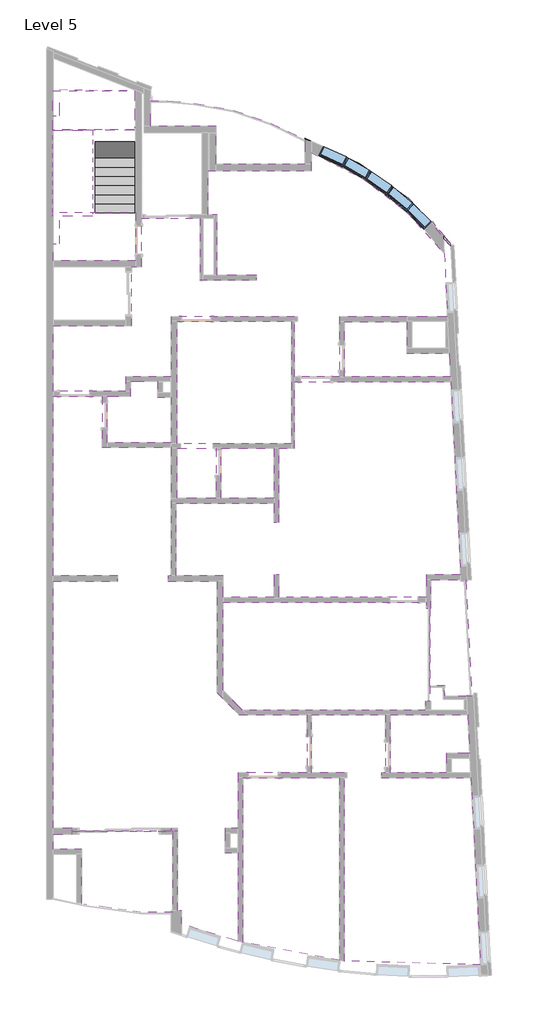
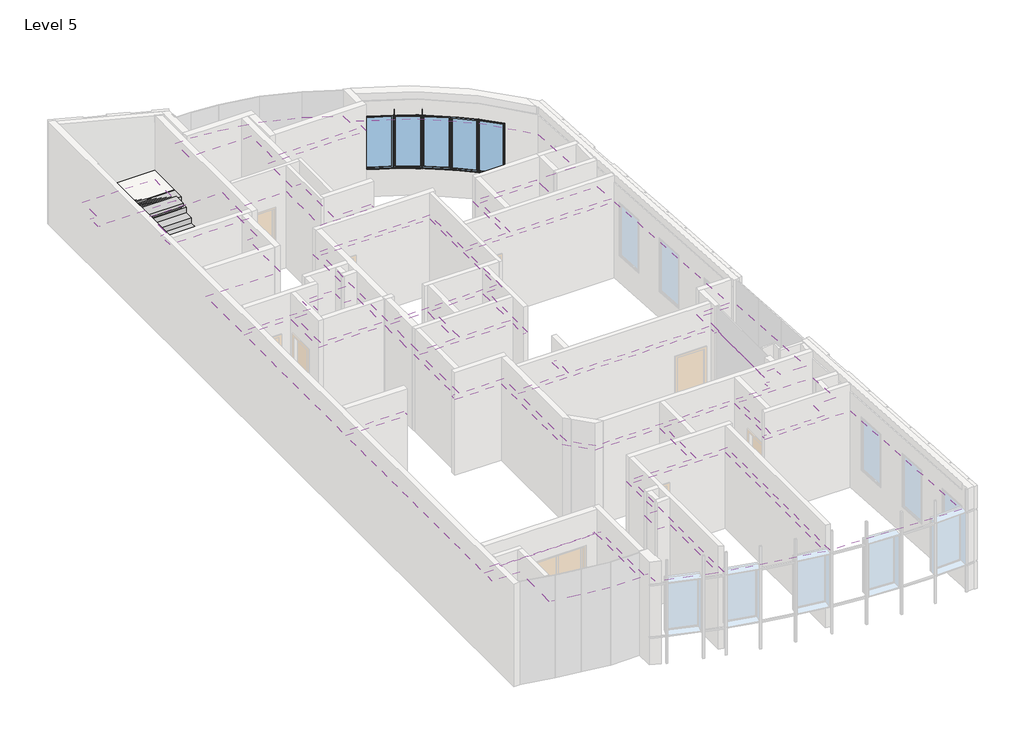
# One storey, part 5 of 5: 18 coverings, 5 windows, 2 proxies, 2 stair flights, 1 slab.
"""IFC4 building model written with IfcOpenShell, lengths in millimetres."""

from ifc_helpers import new_model, si_unit, point, frame, frame_2d, origin, place, context, project, spatial, polyline, circle_curve, trimmed, segment, composite_curve, outline, extrude, faceted_brep, transform, mapped, element, save
from components import m_fixed_0815_x_1830mm_2_6a11e188

model = new_model("IFC4")

# Units and contexts
model_context = context("Model", 3, world=origin())
ifc_project = project(units=[si_unit("LENGTHUNIT", "METRE", prefix="MILLI")], contexts=[model_context])

# Site, building, storey
site = spatial("IfcSite", under=ifc_project)
building = spatial("IfcBuilding", under=site)
storey = spatial("IfcBuildingStorey", under=building, Name="Level 5", Elevation=18500.0)

# Proxies
placement = place(None, origin())
element("IfcBuildingElementProxy", 1, Name="Reveal", ObjectType="Reveal", at=placement, inside=storey, context=model_context, shape_type="SweptSolid", body=[
    extrude(outline(composite_curve([segment(trimmed(circle_curve(frame_2d((4535.6080259, 3399.2748166)), 9525.0), [point((12124.5482533, 9155.45508))], [point((7662.3072504, 12396.4619859))], True, "CARTESIAN"), True, "CONTINUOUS"), segment(polyline([(7662.3072504, 12396.4619859), (7662.3072504, 12449.3785154)]), True, "CONTINUOUS"), segment(trimmed(circle_curve(frame_2d((4535.6080259, 3399.2748166)), 9575.0), [point((7662.3072504, 12449.3785154))], [point((12120.0590293, 9243.6505726))], False, "CARTESIAN"), True, "CONTINUOUS"), segment(polyline([(12120.0590293, 9243.6505726), (12124.5482533, 9155.45508)]), True, "CONTINUOUS")], self_intersect=False)), frame((0.0, 0.0, 19375.0), z_axis=(0.0, 0.0, 1.0), x_axis=(1.0, 0.0, 0.0)), (0.0, 0.0, 1.0), 50.0),
])
element("IfcBuildingElementProxy", 2, Name="Reveal", ObjectType="Reveal", at=placement, inside=storey, context=model_context, shape_type="SweptSolid", body=[
    extrude(outline(composite_curve([segment(trimmed(circle_curve(frame_2d((4535.6080259, 3399.2748166)), 9525.0), [point((12124.5482533, 9155.45508))], [point((11527.266896, 9867.8396686))], True, "CARTESIAN"), True, "CONTINUOUS"), segment(polyline([(11527.266896, 9867.8396686), (11562.5143185, 9903.3668328)]), True, "CONTINUOUS"), segment(trimmed(circle_curve(frame_2d((4535.6080259, 3399.2748166)), 9575.0), [point((11562.5143185, 9903.3668328))], [point((12120.0590293, 9243.6505726))], False, "CARTESIAN"), True, "CONTINUOUS"), segment(polyline([(12120.0590293, 9243.6505726), (12124.5482533, 9155.45508)]), True, "CONTINUOUS")], self_intersect=False)), frame((0.0, 0.0, 21195.0), z_axis=(0.0, 0.0, 1.0), x_axis=(1.0, 0.0, 0.0)), (0.0, 0.0, 1.0), 50.0),
    extrude(outline(composite_curve([segment(trimmed(circle_curve(frame_2d((4535.6080259, 3399.2748166)), 9525.0), [point((8210.516289, 12186.8042907))], [point((7662.3072504, 12396.4619859))], True, "CARTESIAN"), True, "CONTINUOUS"), segment(polyline([(7662.3072504, 12396.4619859), (7662.3072504, 12449.3785154)]), True, "CONTINUOUS"), segment(trimmed(circle_curve(frame_2d((4535.6080259, 3399.2748166)), 9575.0), [point((7662.3072504, 12449.3785154))], [point((8231.7823405, 12232.1067767))], False, "CARTESIAN"), True, "CONTINUOUS"), segment(polyline([(8231.7823405, 12232.1067767), (8210.516289, 12186.8042907)]), True, "CONTINUOUS")], self_intersect=False)), frame((0.0, 0.0, 21195.0), z_axis=(0.0, 0.0, 1.0), x_axis=(1.0, 0.0, 0.0)), (0.0, 0.0, 1.0), 50.0),
    extrude(outline(composite_curve([segment(trimmed(circle_curve(frame_2d((4535.6080259, 3399.2748166)), 9525.0), [point((8957.9716481, 11835.4069275))], [point((8948.2742549, 11840.4833647))], True, "CARTESIAN"), True, "CONTINUOUS"), segment(polyline([(8948.2742549, 11840.4833647), (8969.5403064, 11885.7858507)]), True, "CONTINUOUS"), segment(trimmed(circle_curve(frame_2d((4535.6080259, 3399.2748166)), 9575.0), [point((8969.5403064, 11885.7858507))], [point((8983.0823429, 11878.6968016))], False, "CARTESIAN"), True, "CONTINUOUS"), segment(polyline([(8983.0823429, 11878.6968016), (8957.9716481, 11835.4069275)]), True, "CONTINUOUS")], self_intersect=False)), frame((0.0, 0.0, 21195.0), z_axis=(0.0, 0.0, 1.0), x_axis=(1.0, 0.0, 0.0)), (0.0, 0.0, 1.0), 50.0),
    extrude(outline(composite_curve([segment(trimmed(circle_curve(frame_2d((4535.6080259, 3399.2748166)), 9525.0), [point((9668.2107942, 11423.1151579))], [point((9662.9539178, 11426.4753937))], True, "CARTESIAN"), True, "CONTINUOUS"), segment(polyline([(9662.9539178, 11426.4753937), (9688.0646126, 11469.7652678)]), True, "CONTINUOUS"), segment(trimmed(circle_curve(frame_2d((4535.6080259, 3399.2748166)), 9575.0), [point((9688.0646126, 11469.7652678))], [point((9696.9570845, 11464.0811314))], False, "CARTESIAN"), True, "CONTINUOUS"), segment(polyline([(9696.9570845, 11464.0811314), (9668.2107942, 11423.1151579)]), True, "CONTINUOUS")], self_intersect=False)), frame((0.0, 0.0, 21195.0), z_axis=(0.0, 0.0, 1.0), x_axis=(1.0, 0.0, 0.0)), (0.0, 0.0, 1.0), 50.0),
    extrude(outline(composite_curve([segment(trimmed(circle_curve(frame_2d((4535.6080259, 3399.2748166)), 9525.0), [point((10340.2860207, 10951.1844014))], [point((10335.3479854, 10954.9773917))], True, "CARTESIAN"), True, "CONTINUOUS"), segment(polyline([(10335.3479854, 10954.9773917), (10364.0942756, 10995.9433652)]), True, "CONTINUOUS"), segment(trimmed(circle_curve(frame_2d((4535.6080259, 3399.2748166)), 9575.0), [point((10364.0942756, 10995.9433652))], [point((10372.454166, 10989.521989))], False, "CARTESIAN"), True, "CONTINUOUS"), segment(polyline([(10372.454166, 10989.521989), (10340.2860207, 10951.1844014)]), True, "CONTINUOUS")], self_intersect=False)), frame((0.0, 0.0, 21195.0), z_axis=(0.0, 0.0, 1.0), x_axis=(1.0, 0.0, 0.0)), (0.0, 0.0, 1.0), 50.0),
])

# Coverings
element("IfcCovering", 3, ObjectType="600 x 600mm Grid", at=placement, inside=storey, context=model_context, shape_type="SweptSolid", body=[
    extrude(outline(polyline([(3749.9578779, 6844.2927825), (7249.9578779, 6844.2927825), (7249.9578779, 3106.8778064), (3749.9578779, 3106.8778064), (3749.9578779, 6844.2927825)])), frame((0.0, 0.0, 21100.0), z_axis=(0.0, 0.0, 1.0), x_axis=(1.0, 0.0, 0.0)), (0.0, 0.0, 1.0), 52.0),
])
element("IfcCovering", 4, ObjectType="600 x 600mm Grid", at=placement, inside=storey, context=model_context, shape_type="SweptSolid", body=[
    extrude(outline(polyline([(10788.049349, 5875.0705769), (12091.2636332, 5875.0705769), (12128.2063311, 5149.2927029), (8869.9578779, 5149.2927029), (8869.9578779, 6830.3684627), (10788.049349, 6830.3684627), (10788.049349, 5875.0705769)])), frame((0.0, 0.0, 21100.0), z_axis=(0.0, 0.0, 1.0), x_axis=(1.0, 0.0, 0.0)), (0.0, 0.0, 1.0), 52.0),
])
element("IfcCovering", 5, ObjectType="600 x 600mm Grid", at=placement, inside=storey, context=model_context, shape_type="SweptSolid", body=[
    extrude(outline(composite_curve([segment(polyline([(10005.6168737, -7123.7981953), (12752.9168737, -7123.7981953), (13044.0399551, -12843.2151043)]), True, "CONTINUOUS"), segment(trimmed(circle_curve(frame_2d((11609.3245394, 10843.3737526)), 23730.0), [point((13044.0399551, -12843.2151043))], [point((8870.2907737, -12728.0198004))], False, "CARTESIAN"), True, "CONTINUOUS"), segment(polyline([(8870.2907737, -12728.0198004), (8870.2907737, -6973.7981953), (7870.2909314, -6973.7981953), (7870.2909314, -5198.7981953), (10130.2907737, -5198.7981953), (10130.2907737, -6973.7981953), (10005.6168737, -6973.7981953), (10005.6168737, -7123.7981953)]), True, "CONTINUOUS")], self_intersect=False)), frame((0.0, 0.0, 21100.0), z_axis=(0.0, 0.0, 1.0), x_axis=(1.0, 0.0, 0.0)), (0.0, 0.0, 1.0), 52.0),
])
element("IfcCovering", 6, ObjectType="600 x 600mm Grid", at=placement, inside=storey, context=model_context, shape_type="SweptSolid", body=[
    extrude(outline(polyline([(10280.2907737, -5198.7981953), (12654.9327714, -5198.7981953), (12714.7412494, -6373.7981953), (11997.4732011, -6373.7981953), (11997.4732011, -6973.7981953), (10280.2907737, -6973.7981953), (10280.2907737, -5198.7981953)])), frame((0.0, 0.0, 21100.0), z_axis=(0.0, 0.0, 1.0), x_axis=(1.0, 0.0, 0.0)), (0.0, 0.0, 1.0), 52.0),
])
element("IfcCovering", 7, ObjectType="600 x 600mm Grid", at=placement, inside=storey, context=model_context, shape_type="SweptSolid", body=[
    extrude(outline(polyline([(5089.9578779, 1426.8778064), (5089.9578779, 2956.8778064), (6719.9578779, 2956.8778064), (6719.9578779, 1426.8778064), (5089.9578779, 1426.8778064)])), frame((0.0, 0.0, 21100.0), z_axis=(0.0, 0.0, 1.0), x_axis=(1.0, 0.0, 0.0)), (0.0, 0.0, 1.0), 52.0),
])
element("IfcCovering", 8, ObjectType="600 x 600mm Grid", at=placement, inside=storey, context=model_context, shape_type="SweptSolid", body=[
    extrude(outline(polyline([(3569.9578779, 4516.8864855), (3569.9578779, 3136.8778064), (1599.9578776, 3136.8778064), (1599.9578776, 4556.8830582), (2319.9578779, 4556.8830582), (2319.9578779, 5006.8860701), (3149.9574416, 5006.8860701), (3149.9574416, 4516.8864855), (3569.9578779, 4516.8864855)])), frame((0.0, 0.0, 21100.0), z_axis=(0.0, 0.0, 1.0), x_axis=(1.0, 0.0, 0.0)), (0.0, 0.0, 1.0), 52.0),
])
element("IfcCovering", 9, ObjectType="600 x 600mm Grid", at=placement, inside=storey, context=model_context, shape_type="SweptSolid", body=[
    extrude(outline(composite_curve([segment(polyline([(11936.5482631, 8914.6155682), (12034.2942913, 6994.2927825), (10782.6929286, 6994.2927825), (10782.6929286, 6980.3684627), (8719.9578779, 6980.3684627), (8719.9578779, 5149.2927029), (7349.9578779, 5149.2927029), (7349.9578779, 6994.2927825), (3569.9578779, 6994.2927825), (3569.9578779, 5156.8860701), (2169.9578779, 5156.8860701), (2169.9578779, 4706.8830582), (-50.0421304, 4706.8830582), (-50.0421304, 6706.8748838), (2350.0654712, 6706.8748838), (2350.0654712, 8516.8748746), (2661.8607589, 8516.8748746), (2661.8607589, 10006.8748959), (4449.2779066, 10006.8748959), (4449.2779066, 8112.262158), (6174.9402277, 8112.262158), (6174.9402277, 8262.262158), (4979.9402277, 8262.262158), (4979.9402277, 10106.8748959), (4699.9587688, 10106.8748959), (4699.9587688, 11454.5991251), (7862.3072504, 11454.5991251), (7862.3072504, 12008.9189597)]), True, "CONTINUOUS"), segment(trimmed(circle_curve(frame_2d((4535.6080259, 3399.2748166)), 9230.0), [point((7862.3072504, 12008.9189597))], [point((11936.5482631, 8914.6155682))], False, "CARTESIAN"), True, "CONTINUOUS")], self_intersect=False)), frame((0.0, 0.0, 21100.0), z_axis=(0.0, 0.0, 1.0), x_axis=(1.0, 0.0, 0.0)), (0.0, 0.0, 1.0), 52.0),
])
element("IfcCovering", 10, ObjectType="600 x 600mm Grid", at=placement, inside=storey, context=model_context, shape_type="SweptSolid", body=[
    extrude(outline(composite_curve([segment(trimmed(circle_curve(frame_2d((11609.3245394, 10843.3737526)), 23730.0), [point((8720.2907737, -12710.1054788))], [point((5770.2907737, -12157.0302587))], False, "CARTESIAN"), True, "CONTINUOUS"), segment(polyline([(5770.2907737, -12157.0302587), (5770.2907737, -7123.7981953), (8720.2907737, -7123.7981953), (8720.2907737, -12710.1054788)]), True, "CONTINUOUS")], self_intersect=False)), frame((0.0, 0.0, 21100.0), z_axis=(0.0, 0.0, 1.0), x_axis=(1.0, 0.0, 0.0)), (0.0, 0.0, 1.0), 52.0),
])
element("IfcCovering", 11, ObjectType="600 x 600mm Grid", at=placement, inside=storey, context=model_context, shape_type="SweptSolid", body=[
    extrude(outline(composite_curve([segment(polyline([(-50.0421304, -8662.2362629), (-50.0421304, -1113.1221936), (1933.9578781, -1113.1221936), (1933.9578781, -933.1221936), (-50.0421304, -933.1221936), (-50.0421304, 4556.8830582), (1449.9578776, 4556.8830582), (1449.9578776, 2986.8778064), (3569.9578779, 2986.8778064), (3569.9578779, 1351.8778064), (3569.9578779, -933.1221936), (3473.9578779, -933.1221936), (3473.9578779, -1113.1221936), (4969.9578778, -1113.1221936), (4969.9578778, -4517.9715169), (5643.7897147, -5198.7981953), (7720.2909314, -5198.7981953), (7720.2909314, -6973.7981953), (5620.2907737, -6973.7981953), (5620.2907737, -8662.29082), (5223.5699518, -8662.29082), (5223.5699518, -9422.4272222), (5620.2907737, -9422.4272222), (5620.2907737, -12118.4287584)]), True, "CONTINUOUS"), segment(trimmed(circle_curve(frame_2d((11609.3245394, 10843.3737526)), 23730.0), [point((5620.2907737, -12118.4287584))], [point((3880.252741, -11592.6318887))], False, "CARTESIAN"), True, "CONTINUOUS"), segment(polyline([(3880.252741, -11592.6318887), (3880.252741, -11189.3160932), (3760.252741, -11189.3160932), (3760.252741, -8757.0181124), (3600.5670169, -8757.0181124), (3600.5670169, -8673.6141586), (3557.6788606, -8673.6141586), (3557.6788606, -8757.0181124), (529.9578696, -8757.0181124), (529.9578696, -8662.2362629), (-50.0421304, -8662.2362629)]), True, "CONTINUOUS")], self_intersect=False)), frame((0.0, 0.0, 21100.0), z_axis=(0.0, 0.0, 1.0), x_axis=(1.0, 0.0, 0.0)), (0.0, 0.0, 1.0), 52.0),
])
element("IfcCovering", 12, ObjectType="600 x 600mm Grid", at=placement, inside=storey, context=model_context, shape_type="SweptSolid", body=[
    extrude(outline(polyline([(-50.0421304, -9312.1185157), (-50.0421304, -8842.2362629), (529.9578696, -8842.2362629), (529.9578696, -8757.0181124), (3610.252741, -8757.0181124), (3610.252741, -11236.9456492), (2620.252741, -11236.9456492), (1746.4600136, -11114.1420899), (974.05092, -11005.5870712), (829.9393362, -10974.9552084), (829.9393362, -9312.1185157), (-50.0421304, -9312.1185157)])), frame((0.0, 0.0, 21100.0), z_axis=(0.0, 0.0, 1.0), x_axis=(1.0, 0.0, 0.0)), (0.0, 0.0, 1.0), 52.0),
])
element("IfcCovering", 13, ObjectType="600 x 600mm Grid", at=placement, inside=storey, context=model_context, shape_type="SweptSolid", body=[
    extrude(outline(polyline([(11529.9578778, -1933.9547288), (11529.9578778, -1053.8603265), (12594.2109056, -1053.8603265), (12655.9511875, -2266.8126319), (12714.9198118, -3425.3128267), (12776.048406, -4626.2478876), (11949.9334783, -4624.2050678), (11933.314431, -4297.7065316), (11490.9685725, -4320.222304), (11490.9685725, -1933.9547288), (11529.9578778, -1933.9547288)])), frame((0.0, 0.0, 21100.0), z_axis=(0.0, 0.0, 1.0), x_axis=(1.0, 0.0, 0.0)), (0.0, 0.0, 1.0), 52.0),
])
element("IfcCovering", 14, ObjectType="600 x 600mm Grid", at=placement, inside=storey, context=model_context, shape_type="SweptSolid", body=[
    extrude(outline(polyline([(5149.9578778, -4443.9569428), (5149.9578778, -1753.9547298), (11379.9578778, -1753.9547298), (11379.9578778, -1933.9547288), (11490.9685725, -1933.9547288), (11490.9685725, -4783.8440392), (11349.9578778, -4783.8440392), (11349.9578778, -5048.7981953), (5748.5849662, -5048.7981953), (5149.9578778, -4443.9569428)])), frame((0.0, 0.0, 21100.0), z_axis=(0.0, 0.0, 1.0), x_axis=(1.0, 0.0, 0.0)), (0.0, 0.0, 1.0), 52.0),
])
element("IfcCovering", 15, ObjectType="600 x 600mm Grid", at=placement, inside=storey, context=model_context, shape_type="SweptSolid", body=[
    extrude(outline(polyline([(7349.9578779, 2956.8778064), (7349.9578779, 4999.2927029), (12135.8414559, 4999.2927029), (12436.3168588, -903.8603265), (11379.9578778, -903.8603265), (11379.9578778, -1603.9547298), (6869.9578779, -1603.9547298), (6869.9578779, -903.9547298), (6719.9578779, -903.9547298), (6719.9578779, -1603.9547298), (5149.9578778, -1603.9547298), (5149.9578778, -933.1221936), (3719.9578779, -933.1221936), (3719.9578779, 1276.8778064), (6719.9578779, 1276.8778064), (6719.9578779, 696.0452702), (6869.9578779, 696.0452702), (6869.9578779, 2956.8778064), (7349.9578779, 2956.8778064)])), frame((0.0, 0.0, 21100.0), z_axis=(0.0, 0.0, 1.0), x_axis=(1.0, 0.0, 0.0)), (0.0, 0.0, 1.0), 52.0),
])
element("IfcCovering", 16, ObjectType="600 x 600mm Grid", at=placement, inside=storey, context=model_context, shape_type="SweptSolid", body=[
    extrude(outline(polyline([(3749.9578779, 1426.8778064), (3749.9578779, 2956.8778064), (4939.9578779, 2956.8778064), (4939.9578779, 1426.8778064), (3749.9578779, 1426.8778064)])), frame((0.0, 0.0, 21100.0), z_axis=(0.0, 0.0, 1.0), x_axis=(1.0, 0.0, 0.0)), (0.0, 0.0, 1.0), 52.0),
])
element("IfcCovering", 17, ObjectType="600 x 600mm Grid", at=placement, inside=storey, context=model_context, shape_type="SweptSolid", body=[
    extrude(outline(polyline([(7662.3072504, 12409.1006238), (7662.3072504, 11654.5991251), (4949.6116933, 11654.5991251), (4949.6116933, 12811.9409286), (2939.9587442, 12811.9409286), (2939.9587442, 13599.3570533), (3438.1784244, 13599.3570533), (4275.7806873, 13521.2545862), (5477.246146, 13309.4038095), (6630.7788082, 12912.210661), (7662.3072504, 12409.1006238)])), frame((0.0, 0.0, 21100.0), z_axis=(0.0, 0.0, 1.0), x_axis=(1.0, 0.0, 0.0)), (0.0, 0.0, 1.0), 52.0),
])
element("IfcCovering", 18, ObjectType="600 x 600mm Grid", at=placement, inside=storey, context=model_context, shape_type="SweptSolid", body=[
    extrude(outline(composite_curve([segment(polyline([(11936.5482631, 8914.6155682), (12034.2942913, 6994.2927825), (10782.6929286, 6994.2927825), (10782.6929286, 6980.3684627), (8719.9578779, 6980.3684627), (8719.9578779, 5149.2927029), (7349.9578779, 5149.2927029), (7349.9578779, 6994.2927825), (3569.9578779, 6994.2927825), (3569.9578779, 5156.8860701), (2169.9578779, 5156.8860701), (2169.9578779, 4706.8830582), (-50.0421304, 4706.8830582), (-50.0421304, 6706.8748838), (2350.0654712, 6706.8748838), (2350.0654712, 8516.8748746), (2661.8607589, 8516.8748746), (2661.8607589, 10006.8748959), (4449.2779066, 10006.8748959), (4449.2779066, 8112.262158), (6174.9402277, 8112.262158), (6174.9402277, 8262.262158), (4979.9402277, 8262.262158), (4979.9402277, 10106.8748959), (4699.9587688, 10106.8748959), (4699.9587688, 11454.5991251), (7862.3072504, 11454.5991251), (7862.3072504, 12008.9189597)]), True, "CONTINUOUS"), segment(trimmed(circle_curve(frame_2d((4535.6080259, 3399.2748166)), 9230.0), [point((7862.3072504, 12008.9189597))], [point((11936.5482631, 8914.6155682))], False, "CARTESIAN"), True, "CONTINUOUS")], self_intersect=False)), frame((0.0, 0.0, 21100.0), z_axis=(0.0, 0.0, 1.0), x_axis=(1.0, 0.0, 0.0)), (0.0, 0.0, 1.0), 52.0),
])
element("IfcCovering", 19, ObjectType="600 x 600mm Grid", at=placement, inside=storey, context=model_context, shape_type="SweptSolid", body=[
    extrude(outline(polyline([(2481.8607589, 10179.4957281), (2481.8607589, 8696.8748746), (-50.0421304, 8696.8748746), (-50.0421304, 9219.4957281), (149.9709975, 9219.4957281), (149.9709975, 10179.4957281), (2481.8607589, 10179.4957281)])), frame((0.0, 0.0, 21650.0), z_axis=(0.0, 0.0, 1.0), x_axis=(1.0, 0.0, 0.0)), (0.0, 0.0, 1.0), 52.0),
])
element("IfcCovering", 20, ObjectType="600 x 600mm Grid", at=placement, inside=storey, context=model_context, shape_type="SweptSolid", body=[
    extrude(outline(polyline([(2454.9743495, 13908.8107611), (2454.9743495, 12688.8107611), (2439.3607589, 12688.8107611), (2439.3607589, 12708.2107611), (-17.3392411, 12708.2107611), (-17.3392411, 12688.8107611), (-60.0421304, 12688.8107611), (-60.0421304, 13143.419171), (149.9709975, 13143.419171), (149.9709975, 13943.419171), (2454.9743495, 13908.8107611)])), frame((0.0, 0.0, 19850.0), z_axis=(0.0, 0.0, 1.0), x_axis=(1.0, 0.0, 0.0)), (0.0, 0.0, 1.0), 52.0),
])

# Slab
element("IfcSlab", 21, ObjectType="220mm Thickness", at=placement, inside=storey, context=model_context, shape_type="Brep", body=[
    faceted_brep([(2454.9743495, 13908.8107611, 20157.8947368), (-60.0421304, 13908.8107611, 20157.8947368), (-60.0421304, 12688.8107611, 20157.8947368), (1159.9578696, 12688.8107611, 20157.8947368), (1233.3868495, 12688.8107611, 20157.8947368), (1233.3868495, 12798.8107611, 20157.8947368), (2454.9743495, 12798.8107611, 20157.8947368), (2454.9743495, 13908.8107611, 19937.8947368), (2454.9743495, 12798.8107611, 20047.8947368), (2454.9743495, 12698.8107611, 20047.8947368), (2454.9743495, 12698.8107611, 19937.8947368), (-60.0421304, 13908.8107611, 19937.8947368), (-60.0421304, 12688.8107611, 19937.8947368), (1159.9578696, 12688.8107611, 19937.8947368), (1233.3868495, 12688.8107611, 19937.8947368), (1233.3868495, 12698.8107611, 19937.8947368), (1233.3868495, 12798.8107611, 20047.8947368), (1233.3868495, 12698.8107611, 20047.8947368)], [[[0, 1, 2, 3, 4, 5, 6]], [[7, 0, 6, 8, 9, 10]], [[1, 0, 7, 11]], [[2, 1, 11, 12]], [[3, 2, 12, 13]], [[3, 13, 14, 4]], [[11, 7, 10, 15, 14, 13, 12]], [[16, 17, 9, 8]], [[5, 16, 8, 6]], [[16, 5, 4, 14, 15, 17]], [[9, 17, 15, 10]]]),
])

# Stair flights
element("IfcStairFlight", 22, ObjectType="190mm Depth", at=placement, inside=storey, context=model_context, shape_type="Brep", body=[
    faceted_brep([(1234.9743495, 10448.8107611, 18684.2105263), (1234.9743495, 10168.8107611, 18684.2105263), (2454.9743495, 10168.8107611, 18684.2105263), (2454.9743495, 10448.8107611, 18684.2105263), (1234.9743495, 10448.8107611, 18500.0), (1234.9743495, 10168.8107611, 18500.0), (2454.9743495, 10168.8107611, 18500.0), (2454.9743495, 10448.8107611, 18500.0), (1234.9743495, 10728.8107611, 18868.4210526), (1234.9743495, 10448.8107611, 18868.4210526), (2454.9743495, 10448.8107611, 18868.4210526), (2454.9743495, 10728.8107611, 18868.4210526), (1234.9743495, 10728.8107611, 18640.9897443), (1234.9743495, 10514.5063497, 18500.0), (2454.9743495, 10514.5063497, 18500.0), (2454.9743495, 10728.8107611, 18640.9897443), (1234.9743495, 11008.8107611, 19052.6315789), (1234.9743495, 10728.8107611, 19052.6315789), (2454.9743495, 10728.8107611, 19052.6315789), (2454.9743495, 11008.8107611, 19052.6315789), (1234.9743495, 11008.8107611, 18825.2002706), (2454.9743495, 11008.8107611, 18825.2002706), (1234.9743495, 11288.8107611, 19236.8421053), (1234.9743495, 11008.8107611, 19236.8421053), (2454.9743495, 11008.8107611, 19236.8421053), (2454.9743495, 11288.8107611, 19236.8421053), (1234.9743495, 11288.8107611, 19009.410797), (2454.9743495, 11288.8107611, 19009.410797), (1234.9743495, 11568.8107611, 19421.0526316), (1234.9743495, 11288.8107611, 19421.0526316), (2454.9743495, 11288.8107611, 19421.0526316), (2454.9743495, 11568.8107611, 19421.0526316), (1234.9743495, 11568.8107611, 19193.6213233), (2454.9743495, 11568.8107611, 19193.6213233), (1234.9743495, 11848.8107611, 19605.2631579), (1234.9743495, 11568.8107611, 19605.2631579), (2454.9743495, 11568.8107611, 19605.2631579), (2454.9743495, 11848.8107611, 19605.2631579), (1234.9743495, 11848.8107611, 19377.8318496), (2454.9743495, 11848.8107611, 19377.8318496), (1234.9743495, 12128.8107611, 19789.4736842), (1234.9743495, 11848.8107611, 19789.4736842), (2454.9743495, 11848.8107611, 19789.4736842), (2454.9743495, 12128.8107611, 19789.4736842), (1234.9743495, 12128.8107611, 19562.0423759), (2454.9743495, 12128.8107611, 19562.0423759), (1234.9743495, 12408.8107611, 19973.6842105), (1234.9743495, 12128.8107611, 19973.6842105), (2454.9743495, 12128.8107611, 19973.6842105), (2454.9743495, 12408.8107611, 19973.6842105), (1234.9743495, 12408.8107611, 19746.2529022), (2454.9743495, 12408.8107611, 19746.2529022), (1234.9743495, 12408.8107611, 20157.8947368), (2454.9743495, 12408.8107611, 20157.8947368), (2454.9743495, 12788.8107611, 20157.8947368), (1234.9743495, 12788.8107611, 20157.8947368), (1234.9743495, 12788.8107611, 20057.8947368), (1234.9743495, 12688.8107611, 20057.8947368), (1234.9743495, 12688.8107611, 19930.4634285), (2454.9743495, 12688.8107611, 19930.4634285), (2454.9743495, 12688.8107611, 20057.8947368), (2454.9743495, 12788.8107611, 20057.8947368)], [[[0, 1, 2, 3]], [[1, 0, 4, 5]], [[2, 1, 5, 6]], [[3, 2, 6, 7]], [[8, 9, 10, 11]], [[4, 0, 9, 8, 12, 13]], [[0, 3, 10, 9]], [[3, 7, 14, 15, 11, 10]], [[16, 17, 18, 19]], [[17, 16, 20, 12, 8]], [[8, 11, 18, 17]], [[19, 18, 11, 15, 21]], [[22, 23, 24, 25]], [[23, 22, 26, 20, 16]], [[16, 19, 24, 23]], [[25, 24, 19, 21, 27]], [[28, 29, 30, 31]], [[29, 28, 32, 26, 22]], [[22, 25, 30, 29]], [[31, 30, 25, 27, 33]], [[34, 35, 36, 37]], [[35, 34, 38, 32, 28]], [[28, 31, 36, 35]], [[37, 36, 31, 33, 39]], [[40, 41, 42, 43]], [[41, 40, 44, 38, 34]], [[34, 37, 42, 41]], [[43, 42, 37, 39, 45]], [[46, 47, 48, 49]], [[47, 46, 50, 44, 40]], [[40, 43, 48, 47]], [[49, 48, 43, 45, 51]], [[52, 53, 54, 55]], [[52, 55, 56, 57, 58, 50, 46]], [[46, 49, 53, 52]], [[54, 53, 49, 51, 59, 60, 61]], [[58, 57, 60, 59]], [[5, 4, 13, 14, 7, 6]], [[14, 13, 12, 20, 26, 32, 38, 44, 50, 58, 59, 51, 45, 39, 33, 27, 21, 15]], [[61, 60, 57, 56]], [[61, 56, 55, 54]]]),
])
element("IfcStairFlight", 23, ObjectType="190mm Depth", at=placement, inside=storey, context=model_context, shape_type="Brep", body=[
    faceted_brep([(1159.9578696, 12688.8107611, 20342.1052632), (-60.0421304, 12688.8107611, 20342.1052632), (-60.0421304, 12677.5151724, 20342.1052632), (-60.0421304, 12408.8107611, 20342.1052632), (1159.9578696, 12408.8107611, 20342.1052632), (1159.9578696, 12677.5151724, 20342.1052632), (1159.9578696, 12408.8107611, 20114.6739548), (1159.9578696, 12677.5151724, 19937.8947368), (1159.9578696, 12688.8107611, 19937.8947368), (-60.0421304, 12688.8107611, 19937.8947368), (-60.0421304, 12677.5151724, 19937.8947368), (-60.0421304, 12408.8107611, 20114.6739548), (1159.9578696, 12128.8107611, 20526.3157895), (1159.9578696, 12408.8107611, 20526.3157895), (-60.0421304, 12408.8107611, 20526.3157895), (-60.0421304, 12128.8107611, 20526.3157895), (1159.9578696, 12128.8107611, 20298.8844812), (-60.0421304, 12128.8107611, 20298.8844812), (1159.9578696, 11848.8107611, 20710.5263158), (1159.9578696, 12128.8107611, 20710.5263158), (-60.0421304, 12128.8107611, 20710.5263158), (-60.0421304, 11848.8107611, 20710.5263158), (1159.9578696, 11848.8107611, 20483.0950075), (-60.0421304, 11848.8107611, 20483.0950075), (1159.9578696, 11568.8107611, 20894.7368421), (1159.9578696, 11848.8107611, 20894.7368421), (-60.0421304, 11848.8107611, 20894.7368421), (-60.0421304, 11568.8107611, 20894.7368421), (1159.9578696, 11568.8107611, 20667.3055338), (-60.0421304, 11568.8107611, 20667.3055338), (1159.9578696, 11288.8107611, 21078.9473684), (1159.9578696, 11568.8107611, 21078.9473684), (-60.0421304, 11568.8107611, 21078.9473684), (-60.0421304, 11288.8107611, 21078.9473684), (1159.9578696, 11288.8107611, 20851.5160601), (-60.0421304, 11288.8107611, 20851.5160601), (1159.9578696, 11008.8107611, 21263.1578947), (1159.9578696, 11288.8107611, 21263.1578947), (-60.0421304, 11288.8107611, 21263.1578947), (-60.0421304, 11008.8107611, 21263.1578947), (1159.9578696, 11008.8107611, 21035.7265864), (-60.0421304, 11008.8107611, 21035.7265864), (1159.9578696, 10728.8107611, 21447.3684211), (1159.9578696, 11008.8107611, 21447.3684211), (-60.0421304, 11008.8107611, 21447.3684211), (-60.0421304, 10728.8107611, 21447.3684211), (1159.9578696, 10728.8107611, 21219.9371127), (-60.0421304, 10728.8107611, 21219.9371127), (1159.9578696, 10448.8107611, 21631.5789474), (1159.9578696, 10728.8107611, 21631.5789474), (-60.0421304, 10728.8107611, 21631.5789474), (-60.0421304, 10448.8107611, 21631.5789474), (1159.9578696, 10448.8107611, 21404.1476391), (-60.0421304, 10448.8107611, 21404.1476391), (1159.9578696, 10448.8107611, 21815.7894737), (-60.0421304, 10448.8107611, 21815.7894737), (-60.0421304, 10068.8107611, 21815.7894737), (1159.9578696, 10068.8107611, 21815.7894737), (1159.9578696, 10068.8107611, 21715.7894737), (1159.9578696, 10168.8107611, 21715.7894737), (1159.9578696, 10168.8107611, 21588.3581654), (-60.0421304, 10168.8107611, 21588.3581654), (-60.0421304, 10168.8107611, 21715.7894737), (-60.0421304, 10068.8107611, 21715.7894737)], [[[0, 1, 2, 3, 4, 5]], [[4, 6, 7, 8, 0, 5]], [[1, 0, 8, 9]], [[1, 9, 10, 11, 3, 2]], [[12, 13, 14, 15]], [[13, 12, 16, 6, 4]], [[14, 13, 4, 3]], [[15, 14, 3, 11, 17]], [[18, 19, 20, 21]], [[19, 18, 22, 16, 12]], [[20, 19, 12, 15]], [[21, 20, 15, 17, 23]], [[24, 25, 26, 27]], [[25, 24, 28, 22, 18]], [[26, 25, 18, 21]], [[27, 26, 21, 23, 29]], [[30, 31, 32, 33]], [[31, 30, 34, 28, 24]], [[32, 31, 24, 27]], [[33, 32, 27, 29, 35]], [[36, 37, 38, 39]], [[37, 36, 40, 34, 30]], [[38, 37, 30, 33]], [[39, 38, 33, 35, 41]], [[42, 43, 44, 45]], [[43, 42, 46, 40, 36]], [[44, 43, 36, 39]], [[45, 44, 39, 41, 47]], [[48, 49, 50, 51]], [[49, 48, 52, 46, 42]], [[50, 49, 42, 45]], [[51, 50, 45, 47, 53]], [[54, 55, 56, 57]], [[54, 57, 58, 59, 60, 52, 48]], [[55, 54, 48, 51]], [[56, 55, 51, 53, 61, 62, 63]], [[61, 60, 59, 62]], [[10, 7, 6, 16, 22, 28, 34, 40, 46, 52, 60, 61, 53, 47, 41, 35, 29, 23, 17, 11]], [[7, 10, 9, 8]], [[63, 62, 59, 58]], [[63, 58, 57, 56]]]),
])

# Windows
m_fixed_0815_x_1830mm_2_shape = m_fixed_0815_x_1830mm_2_6a11e188(model_context)
element("IfcWindow", 24, ObjectType="M_Fixed : 0815 x 1830mm 2", at=placement, inside=storey, context=model_context, shape_type="MappedRepresentation", body=[
    mapped(m_fixed_0815_x_1830mm_2_shape, transform((11152.0749385, 10068.2534159, 19095.0), x_axis=(-0.7098961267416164, 0.7043063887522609, 0.0), y_axis=(-0.7043063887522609, -0.7098961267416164, 0.0), z_axis=(0.0, 0.0, 1.0))),
])
element("IfcWindow", 25, ObjectType="M_Fixed : 0815 x 1830mm 2", at=placement, inside=storey, context=model_context, shape_type="MappedRepresentation", body=[
    mapped(m_fixed_0815_x_1830mm_2_shape, transform((10574.0486821, 10595.8117897, 19095.0), x_axis=(-0.7660533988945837, 0.6427769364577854, 0.0), y_axis=(-0.6427769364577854, -0.7660533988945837, 0.0), z_axis=(0.0, 0.0, 1.0))),
])
element("IfcWindow", 26, ObjectType="M_Fixed : 0815 x 1830mm 2", at=placement, inside=storey, context=model_context, shape_type="MappedRepresentation", body=[
    mapped(m_fixed_0815_x_1830mm_2_shape, transform((9931.7154506, 11089.1990441, 19095.0), x_axis=(-0.8185732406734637, 0.5744021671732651, 0.0), y_axis=(-0.5744021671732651, -0.8185732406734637, 0.0), z_axis=(0.0, 0.0, 1.0))),
])
element("IfcWindow", 27, ObjectType="M_Fixed : 0815 x 1830mm 2", at=placement, inside=storey, context=model_context, shape_type="MappedRepresentation", body=[
    mapped(m_fixed_0815_x_1830mm_2_shape, transform((9249.2599573, 11525.4298381, 19095.0), x_axis=(-0.8650089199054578, 0.5017564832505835, 0.0), y_axis=(-0.5017564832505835, -0.8650089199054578, 0.0), z_axis=(0.0, 0.0, 1.0))),
])
element("IfcWindow", 28, ObjectType="M_Fixed : 0815 x 1830mm 2", at=placement, inside=storey, context=model_context, shape_type="MappedRepresentation", body=[
    mapped(m_fixed_0815_x_1830mm_2_shape, transform((8527.5630763, 11903.2271236, 19095.0), x_axis=(-0.9052244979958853, 0.4249336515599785, 0.0), y_axis=(-0.4249336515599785, -0.9052244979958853, 0.0), z_axis=(0.0, 0.0, 1.0))),
])

save(model, "model.ifc")
